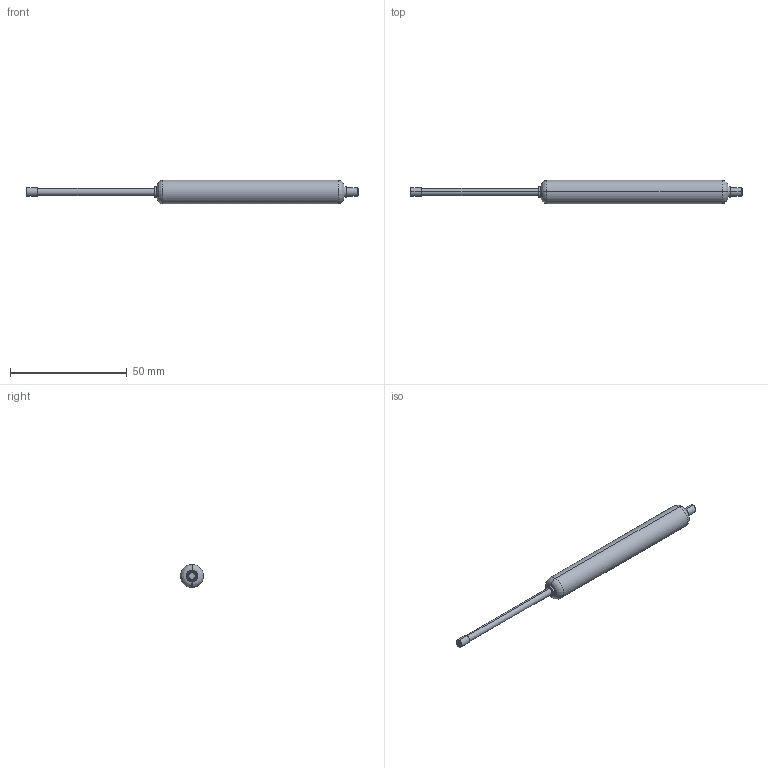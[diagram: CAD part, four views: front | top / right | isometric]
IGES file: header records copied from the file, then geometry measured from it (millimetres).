
Start section: SolidWorks IGES file using analytic representation for surfaces
Bounding box: 142 x 10 x 10 mm (x, y, z)
Surface area: 3207.8 mm2 (no closed solid volume)
Topology: 0 solids, 0 shells, 27 faces, 464 edges, 464 vertices
Faces by surface type: revolution 16, bspline 11
